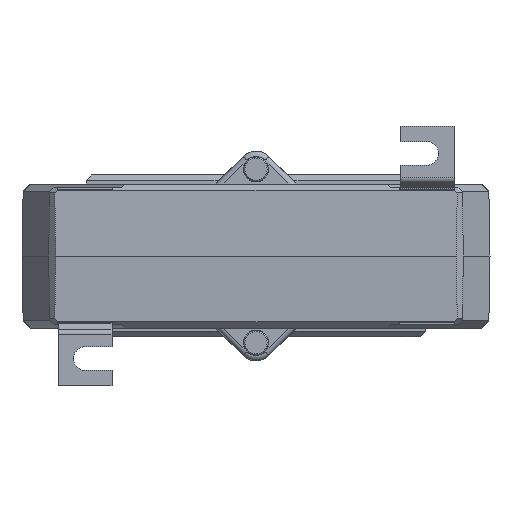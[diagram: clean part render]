
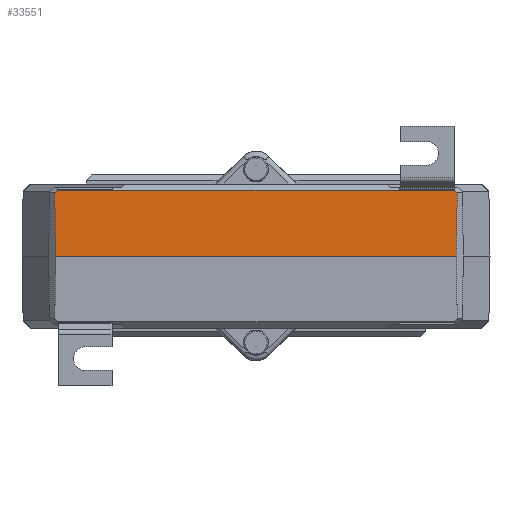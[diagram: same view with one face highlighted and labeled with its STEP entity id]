
A CAD part, front view. The second image highlights one B-rep face of the part: STEP entity #33551.
In plain terms, the highlighted planar face has unit normal (0, -1, 0.018).
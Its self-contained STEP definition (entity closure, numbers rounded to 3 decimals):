
#602=PLANE('',#35462);
#1992=FACE_OUTER_BOUND('',#3849,.T.);
#3849=EDGE_LOOP('',(#22743,#22744,#22745,#22746,#22747,#22748));
#6784=LINE('',#51274,#10314);
#6801=LINE('',#51306,#10331);
#6874=LINE('',#51504,#10404);
#6875=LINE('',#51505,#10405);
#6876=LINE('',#51507,#10406);
#6877=LINE('',#51508,#10407);
#10314=VECTOR('',#37874,1000.);
#10331=VECTOR('',#37897,1000.);
#10404=VECTOR('',#38036,1000.);
#10405=VECTOR('',#38037,1000.);
#10406=VECTOR('',#38038,1000.);
#10407=VECTOR('',#38039,1000.);
#14498=VERTEX_POINT('',#51271);
#14499=VERTEX_POINT('',#51273);
#14511=VERTEX_POINT('',#51304);
#14602=VERTEX_POINT('',#51502);
#14603=VERTEX_POINT('',#51503);
#14604=VERTEX_POINT('',#51506);
#17694=EDGE_CURVE('',#14499,#14498,#6784,.T.);
#17711=EDGE_CURVE('',#14498,#14511,#6801,.T.);
#17810=EDGE_CURVE('',#14602,#14603,#6874,.T.);
#17811=EDGE_CURVE('',#14603,#14499,#6875,.T.);
#17812=EDGE_CURVE('',#14511,#14604,#6876,.T.);
#17813=EDGE_CURVE('',#14602,#14604,#6877,.T.);
#22743=ORIENTED_EDGE('',*,*,#17810,.T.);
#22744=ORIENTED_EDGE('',*,*,#17811,.T.);
#22745=ORIENTED_EDGE('',*,*,#17694,.T.);
#22746=ORIENTED_EDGE('',*,*,#17711,.T.);
#22747=ORIENTED_EDGE('',*,*,#17812,.T.);
#22748=ORIENTED_EDGE('',*,*,#17813,.F.);
#33551=ADVANCED_FACE('',(#1992),#602,.T.);
#35462=AXIS2_PLACEMENT_3D('',#51501,#38034,#38035);
#37874=DIRECTION('',(-1.,0.,0.));
#37897=DIRECTION('',(-0.813,-0.01,-0.582));
#38034=DIRECTION('center_axis',(0.,-1.,
0.017));
#38035=DIRECTION('ref_axis',(0.,-0.017,-1.));
#38036=DIRECTION('',(0.017,0.017,1.));
#38037=DIRECTION('',(-0.813,0.01,0.582));
#38038=DIRECTION('',(0.017,-0.017,-1.));
#38039=DIRECTION('',(-1.,0.,0.));
#51271=CARTESIAN_POINT('',(-54.76,-65.18,18.32));
#51273=CARTESIAN_POINT('',(54.76,-65.18,18.32));
#51274=CARTESIAN_POINT('',(-47.5,-65.18,18.32));
#51304=CARTESIAN_POINT('',(-55.905,-65.195,17.5));
#51306=CARTESIAN_POINT('',(-47.527,-65.09,23.499));
#51501=CARTESIAN_POINT('Origin',(57.6,-65.5,0.));
#51502=CARTESIAN_POINT('',(55.6,-65.5,0.));
#51503=CARTESIAN_POINT('',(55.905,-65.195,17.5));
#51504=CARTESIAN_POINT('',(55.95,-65.15,20.058));
#51505=CARTESIAN_POINT('',(47.527,-65.09,23.499));
#51506=CARTESIAN_POINT('',(-55.6,-65.5,0.));
#51507=CARTESIAN_POINT('',(-55.949,-65.151,19.988));
#51508=CARTESIAN_POINT('',(-57.6,-65.5,0.));
